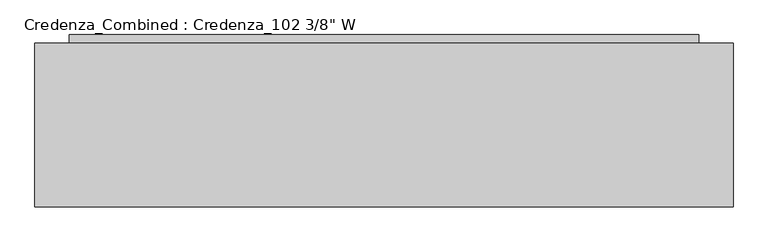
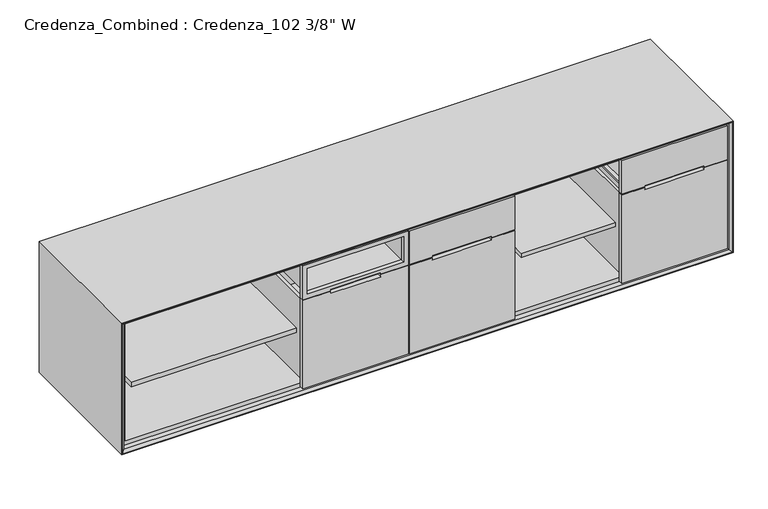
"""IFC4 building model written with IfcOpenShell, lengths in millimetres: furniture geometry."""

from ifc_helpers import new_model, si_unit, frame, origin, origin_with_axes, place, context, project, spatial, polyline, outline, extrude, faceted_brep, source, transform, mapped, element, save


def furniture_e7ff067c(model_context):
    return source(origin(), model_context, "Body", "SolidModel", [
        faceted_brep([(2505.9957407, 93.4200979, 124.61875), (2505.9957407, 244.7174021, 124.61875), (2207.2917593, 244.7174021, 124.61875), (2207.2917593, 93.4200979, 124.61875), (2512.0216657, 250.7433271, 118.26875), (2512.0216657, 87.3941729, 118.26875), (2201.2658343, 87.3941729, 118.26875), (2201.2658343, 250.7433271, 118.26875), (2544.6470885, 283.36875, 492.91875), (2544.6470885, 283.36875, 499.26875), (2544.6470885, 54.76875, 499.26875), (2544.6470885, 54.76875, 492.91875), (2531.9470885, 270.66875, 492.91875), (2531.9470885, 67.46875, 492.91875), (2525.9211635, 264.642825, 499.26875), (2525.9211635, 73.494675, 499.26875), (2168.6404115, 54.76875, 499.26875), (2168.6404115, 54.76875, 492.91875), (2181.3404115, 67.46875, 492.91875), (2187.3663365, 73.494675, 499.26875), (2168.6404115, 283.36875, 499.26875), (2168.6404115, 283.36875, 492.91875), (2181.3404115, 270.66875, 492.91875), (2187.3663365, 264.642825, 499.26875)], [[[0, 1, 2, 3]], [[4, 5, 6, 7]], [[8, 9, 10, 11]], [[4, 12, 13, 5]], [[14, 1, 0, 15]], [[11, 10, 16, 17]], [[5, 13, 18, 6]], [[15, 0, 3, 19]], [[17, 16, 20, 21]], [[6, 18, 22, 7]], [[19, 3, 2, 23]], [[9, 8, 21, 20]], [[8, 11, 17, 21], [13, 12, 22, 18]], [[12, 4, 7, 22]], [[1, 14, 23, 2]], [[10, 9, 20, 16], [14, 15, 19, 23]]]),
        faceted_brep([(2505.9957407, 383.9325979, 124.61875), (2505.9957407, 535.2299021, 124.61875), (2207.2917593, 535.2299021, 124.61875), (2207.2917593, 383.9325979, 124.61875), (2512.0216657, 541.2558271, 118.26875), (2512.0216657, 377.9066729, 118.26875), (2201.2658343, 377.9066729, 118.26875), (2201.2658343, 541.2558271, 118.26875), (2544.6470885, 573.88125, 492.91875), (2544.6470885, 573.88125, 499.26875), (2544.6470885, 345.28125, 499.26875), (2544.6470885, 345.28125, 492.91875), (2531.9470885, 561.18125, 492.91875), (2531.9470885, 357.98125, 492.91875), (2525.9211635, 555.155325, 499.26875), (2525.9211635, 364.007175, 499.26875), (2168.6404115, 345.28125, 499.26875), (2168.6404115, 345.28125, 492.91875), (2181.3404115, 357.98125, 492.91875), (2187.3663365, 364.007175, 499.26875), (2168.6404115, 573.88125, 499.26875), (2168.6404115, 573.88125, 492.91875), (2181.3404115, 561.18125, 492.91875), (2187.3663365, 555.155325, 499.26875)], [[[0, 1, 2, 3]], [[4, 5, 6, 7]], [[8, 9, 10, 11]], [[4, 12, 13, 5]], [[14, 1, 0, 15]], [[11, 10, 16, 17]], [[5, 13, 18, 6]], [[15, 0, 3, 19]], [[17, 16, 20, 21]], [[6, 18, 22, 7]], [[19, 3, 2, 23]], [[9, 8, 21, 20]], [[8, 11, 17, 21], [13, 12, 22, 18]], [[12, 4, 7, 22]], [[1, 14, 23, 2]], [[10, 9, 20, 16], [14, 15, 19, 23]]]),
        extrude(outline(polyline([(2549.525, 319.0875), (2549.525, 300.0375), (2162.175, 300.0375), (2162.175, 319.0875), (2549.525, 319.0875)])), frame((0.0, 0.0, 118.26875), z_axis=(0.0, 0.0, 1.0), x_axis=(1.0, 0.0, 0.0)), (0.0, 0.0, 1.0), 360.3625),
        faceted_brep([(2563.8125, 609.6, 478.63125), (2149.475, 609.6, 478.63125), (2149.475, 28.575, 478.63125), (2563.8125, 28.575, 478.63125), (2162.175, 596.9, 478.63125), (2549.525, 596.9, 478.63125), (2549.525, 41.275, 478.63125), (2162.175, 41.275, 478.63125), (2563.8125, 609.6, 105.56875), (2149.475, 609.6, 105.56875), (2149.475, 28.575, 105.56875), (2563.8125, 28.575, 105.56875), (2162.175, 596.9, 118.26875), (2549.525, 596.9, 118.26875), (2549.525, 41.275, 118.26875), (2162.175, 41.275, 118.26875)], [[[0, 1, 2, 3], [4, 5, 6, 7]], [[1, 0, 8, 9]], [[2, 1, 9, 10]], [[3, 2, 10, 11]], [[8, 0, 3, 11]], [[5, 4, 12, 13]], [[6, 5, 13, 14]], [[7, 6, 14, 15]], [[4, 7, 15, 12]], [[13, 12, 15, 14]], [[8, 11, 10, 9]]]),
        extrude(outline(polyline([(504.03125, 2132.0125), (105.56875, 2132.0125), (105.56875, 2581.275), (504.03125, 2581.275), (504.03125, 2483.64375), (494.7030946, 2483.64375), (494.7030946, 2229.64375), (504.03125, 2229.64375), (504.03125, 2132.0125)])), frame((0.0, 9.525, 0.0), z_axis=(0.0, 1.0, 0.0), x_axis=(0.0, 0.0, 1.0)), (0.0, 0.0, 1.0), 19.05),
        extrude(outline(polyline([(659.60625, 2581.275), (659.60625, 2132.0125), (507.20625, 2132.0125), (507.20625, 2229.64375), (513.3594054, 2229.64375), (513.3594054, 2483.64375), (507.20625, 2483.64375), (507.20625, 2581.275), (659.60625, 2581.275)])), frame((0.0, 9.525, 0.0), z_axis=(0.0, 1.0, 0.0), x_axis=(0.0, 0.0, 1.0)), (0.0, 0.0, 1.0), 19.05),
        extrude(outline(polyline([(2104.23125, 609.6), (2104.23125, 9.525), (1704.18125, 9.525), (1704.18125, 609.6), (2104.23125, 609.6)])), frame((0.0, 0.0, 371.475), z_axis=(0.0, 0.0, 1.0), x_axis=(1.0, 0.0, 0.0)), (0.0, 0.0, 1.0), 19.05),
        faceted_brep([(1601.1207407, 93.4200979, 124.61875), (1601.1207407, 244.7174021, 124.61875), (1302.4167593, 244.7174021, 124.61875), (1302.4167593, 93.4200979, 124.61875), (1607.1466657, 250.7433271, 118.26875), (1607.1466657, 87.3941729, 118.26875), (1296.3908343, 87.3941729, 118.26875), (1296.3908343, 250.7433271, 118.26875), (1639.7720885, 283.36875, 492.91875), (1639.7720885, 283.36875, 499.26875), (1639.7720885, 54.76875, 499.26875), (1639.7720885, 54.76875, 492.91875), (1627.0720885, 270.66875, 492.91875), (1627.0720885, 67.46875, 492.91875), (1621.0461635, 264.642825, 499.26875), (1621.0461635, 73.494675, 499.26875), (1263.7654115, 54.76875, 499.26875), (1263.7654115, 54.76875, 492.91875), (1276.4654115, 67.46875, 492.91875), (1282.4913365, 73.494675, 499.26875), (1263.7654115, 283.36875, 499.26875), (1263.7654115, 283.36875, 492.91875), (1276.4654115, 270.66875, 492.91875), (1282.4913365, 264.642825, 499.26875)], [[[0, 1, 2, 3]], [[4, 5, 6, 7]], [[8, 9, 10, 11]], [[4, 12, 13, 5]], [[14, 1, 0, 15]], [[11, 10, 16, 17]], [[5, 13, 18, 6]], [[15, 0, 3, 19]], [[17, 16, 20, 21]], [[6, 18, 22, 7]], [[19, 3, 2, 23]], [[9, 8, 21, 20]], [[8, 11, 17, 21], [13, 12, 22, 18]], [[12, 4, 7, 22]], [[1, 14, 23, 2]], [[10, 9, 20, 16], [14, 15, 19, 23]]]),
        faceted_brep([(1601.1207407, 383.9325979, 124.61875), (1601.1207407, 535.2299021, 124.61875), (1302.4167593, 535.2299021, 124.61875), (1302.4167593, 383.9325979, 124.61875), (1607.1466657, 541.2558271, 118.26875), (1607.1466657, 377.9066729, 118.26875), (1296.3908343, 377.9066729, 118.26875), (1296.3908343, 541.2558271, 118.26875), (1639.7720885, 573.88125, 492.91875), (1639.7720885, 573.88125, 499.26875), (1639.7720885, 345.28125, 499.26875), (1639.7720885, 345.28125, 492.91875), (1627.0720885, 561.18125, 492.91875), (1627.0720885, 357.98125, 492.91875), (1621.0461635, 555.155325, 499.26875), (1621.0461635, 364.007175, 499.26875), (1263.7654115, 345.28125, 499.26875), (1263.7654115, 345.28125, 492.91875), (1276.4654115, 357.98125, 492.91875), (1282.4913365, 364.007175, 499.26875), (1263.7654115, 573.88125, 499.26875), (1263.7654115, 573.88125, 492.91875), (1276.4654115, 561.18125, 492.91875), (1282.4913365, 555.155325, 499.26875)], [[[0, 1, 2, 3]], [[4, 5, 6, 7]], [[8, 9, 10, 11]], [[4, 12, 13, 5]], [[14, 1, 0, 15]], [[11, 10, 16, 17]], [[5, 13, 18, 6]], [[15, 0, 3, 19]], [[17, 16, 20, 21]], [[6, 18, 22, 7]], [[19, 3, 2, 23]], [[9, 8, 21, 20]], [[8, 11, 17, 21], [13, 12, 22, 18]], [[12, 4, 7, 22]], [[1, 14, 23, 2]], [[10, 9, 20, 16], [14, 15, 19, 23]]]),
        extrude(outline(polyline([(1644.65, 319.0875), (1644.65, 300.0375), (1257.3, 300.0375), (1257.3, 319.0875), (1644.65, 319.0875)])), frame((0.0, 0.0, 118.26875), z_axis=(0.0, 0.0, 1.0), x_axis=(1.0, 0.0, 0.0)), (0.0, 0.0, 1.0), 360.3625),
        faceted_brep([(1658.9375, 609.6, 478.63125), (1244.6, 609.6, 478.63125), (1244.6, 28.575, 478.63125), (1658.9375, 28.575, 478.63125), (1257.3, 596.9, 478.63125), (1644.65, 596.9, 478.63125), (1644.65, 41.275, 478.63125), (1257.3, 41.275, 478.63125), (1658.9375, 609.6, 105.56875), (1244.6, 609.6, 105.56875), (1244.6, 28.575, 105.56875), (1658.9375, 28.575, 105.56875), (1257.3, 596.9, 118.26875), (1644.65, 596.9, 118.26875), (1644.65, 41.275, 118.26875), (1257.3, 41.275, 118.26875)], [[[0, 1, 2, 3], [4, 5, 6, 7]], [[1, 0, 8, 9]], [[2, 1, 9, 10]], [[3, 2, 10, 11]], [[8, 0, 3, 11]], [[5, 4, 12, 13]], [[6, 5, 13, 14]], [[7, 6, 14, 15]], [[4, 7, 15, 12]], [[13, 12, 15, 14]], [[8, 11, 10, 9]]]),
        extrude(outline(polyline([(504.03125, 1227.1375), (105.56875, 1227.1375), (105.56875, 1676.4), (504.03125, 1676.4), (504.03125, 1578.76875), (494.7030946, 1578.76875), (494.7030946, 1324.76875), (504.03125, 1324.76875), (504.03125, 1227.1375)])), frame((0.0, 9.525, 0.0), z_axis=(0.0, 1.0, 0.0), x_axis=(0.0, 0.0, 1.0)), (0.0, 0.0, 1.0), 19.05),
        extrude(outline(polyline([(659.60625, 1676.4), (659.60625, 1227.1375), (507.20625, 1227.1375), (507.20625, 1324.76875), (513.3594054, 1324.76875), (513.3594054, 1578.76875), (507.20625, 1578.76875), (507.20625, 1676.4), (659.60625, 1676.4)])), frame((0.0, 9.525, 0.0), z_axis=(0.0, 1.0, 0.0), x_axis=(0.0, 0.0, 1.0)), (0.0, 0.0, 1.0), 19.05),
        extrude(outline(polyline([(1206.5, 609.6), (1206.5, 28.575), (792.1625, 28.575), (792.1625, 609.6), (1206.5, 609.6)]), holes=[polyline([(804.8625, 596.9), (804.8625, 41.275), (1192.2125, 41.275), (1192.2125, 596.9), (804.8625, 596.9)])]), frame((0.0, 0.0, 118.26875), z_axis=(0.0, 0.0, 1.0), x_axis=(1.0, 0.0, 0.0)), (0.0, 0.0, 1.0), 360.3625),
        extrude(outline(polyline([(642.14375, 1206.5), (642.14375, 792.1625), (524.66875, 792.1625), (524.66875, 1206.5), (642.14375, 1206.5)]), holes=[polyline([(640.55625, 1204.9125), (526.25625, 1204.9125), (526.25625, 793.75), (640.55625, 793.75), (640.55625, 1204.9125)])]), frame((0.0, 28.575, 0.0), z_axis=(0.0, 1.0, 0.0), x_axis=(0.0, 0.0, 1.0)), (0.0, 0.0, 1.0), 581.025),
        extrude(outline(polyline([(504.03125, 774.7), (105.56875, 774.7), (105.56875, 1223.9625), (504.03125, 1223.9625), (504.03125, 1107.28125), (494.7030946, 1107.28125), (494.7030946, 891.38125), (504.03125, 891.38125), (504.03125, 774.7)])), frame((0.0, 9.525, 0.0), z_axis=(0.0, 1.0, 0.0), x_axis=(0.0, 0.0, 1.0)), (0.0, 0.0, 1.0), 19.05),
        extrude(outline(polyline([(659.60625, 1223.9625), (659.60625, 774.7), (507.20625, 774.7), (507.20625, 891.38125), (513.3594054, 891.38125), (513.3594054, 1107.28125), (507.20625, 1107.28125), (507.20625, 1223.9625), (659.60625, 1223.9625)]), holes=[polyline([(640.55625, 793.75), (640.55625, 1204.9125), (526.25625, 1204.9125), (526.25625, 793.75), (640.55625, 793.75)])]), frame((0.0, 9.525, 0.0), z_axis=(0.0, 1.0, 0.0), x_axis=(0.0, 0.0, 1.0)), (0.0, 0.0, 1.0), 19.05),
        extrude(outline(polyline([(2473.325, 609.6), (2473.325, 241.3), (127.0, 241.3), (127.0, 609.6), (2473.325, 609.6)])), origin_with_axes(), (0.0, 0.0, 1.0), 87.3125),
        extrude(outline(polyline([(2473.325, 641.35), (2473.325, 609.6), (127.0, 609.6), (127.0, 641.35), (2473.325, 641.35)])), origin_with_axes(), (0.0, 0.0, 1.0), 647.7),
        extrude(outline(polyline([(665.1625, 2587.625), (665.1625, 12.7), (100.0125, 12.7), (100.0125, 2587.625), (665.1625, 2587.625)]), holes=[polyline([(646.1125, 31.75), (646.1125, 2568.575), (119.0625, 2568.575), (119.0625, 31.75), (646.1125, 31.75)])]), frame((0.0, 31.75, 0.0), z_axis=(0.0, 1.0, 0.0), x_axis=(0.0, 0.0, 1.0)), (0.0, 0.0, 1.0), 577.85),
        faceted_brep([(2587.625, 9.525, 665.1625), (2587.625, 609.6, 665.1625), (2587.625, 609.6, 100.0125), (2587.625, 9.525, 100.0125), (2597.15, 0.0, 674.6875), (2597.15, 0.0, 90.4875), (2600.325, 609.6, 677.8625), (2600.325, 0.0, 677.8625), (2600.325, 0.0, 87.3125), (2600.325, 609.6, 87.3125), (12.7, 609.6, 100.0125), (12.7, 9.525, 100.0125), (3.175, 0.0, 90.4875), (0.0, 0.0, 87.3125), (0.0, 609.6, 87.3125), (12.7, 609.6, 665.1625), (12.7, 9.525, 665.1625), (3.175, 0.0, 674.6875), (0.0, 0.0, 677.8625), (0.0, 609.6, 677.8625)], [[[0, 1, 2, 3]], [[4, 0, 3, 5]], [[6, 7, 8, 9]], [[3, 2, 10, 11]], [[5, 3, 11, 12]], [[9, 8, 13, 14]], [[11, 10, 15, 16]], [[12, 11, 16, 17]], [[14, 13, 18, 19]], [[9, 14, 19, 6], [1, 15, 10, 2]], [[16, 15, 1, 0]], [[17, 16, 0, 4]], [[7, 18, 13, 8], [5, 12, 17, 4]], [[19, 18, 7, 6]]]),
        extrude(outline(polyline([(746.125, 609.6), (746.125, 9.525), (44.45, 9.525), (44.45, 609.6), (746.125, 609.6)])), frame((0.0, 0.0, 371.475), z_axis=(0.0, 0.0, 1.0), x_axis=(1.0, 0.0, 0.0)), (0.0, 0.0, 1.0), 19.05),
    ])


if __name__ == "__main__":
    model = new_model("IFC4")
    model_context = context("Model", 3, world=origin())
    ifc_project = project(units=[si_unit("LENGTHUNIT", "METRE", prefix="MILLI")], contexts=[model_context])
    site = spatial("IfcSite", under=ifc_project)
    building = spatial("IfcBuilding", under=site)
    placement = place(None, origin())
    furniture_shape = furniture_e7ff067c(model_context)
    element("IfcFurniture", 1, ObjectType="Credenza_Combined : Credenza_102 3/8\" W", at=placement, inside=building, context=model_context, shape_type="MappedRepresentation", body=[
        mapped(furniture_shape, transform((0.0, 0.0, 0.0), x_axis=(1.0, 0.0, 0.0), y_axis=(0.0, 1.0, 0.0), z_axis=(0.0, 0.0, 1.0))),
    ])
    save(model, "model.ifc")
